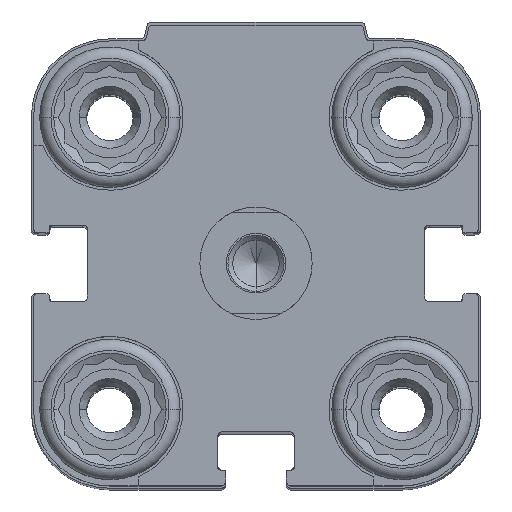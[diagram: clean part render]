
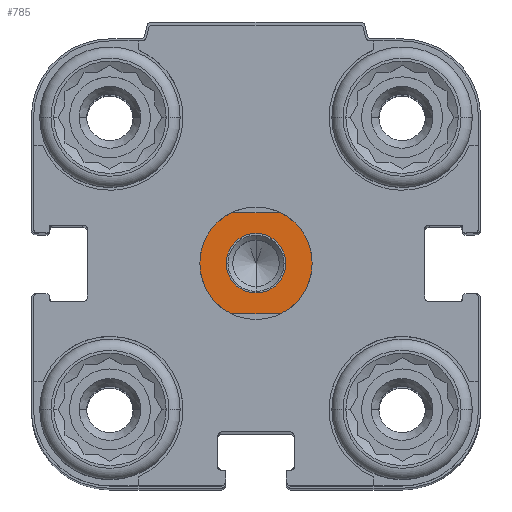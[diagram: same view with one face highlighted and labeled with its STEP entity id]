
A CAD part, top view. The second image highlights one B-rep face of the part: STEP entity #785.
In plain terms, the highlighted planar face has unit normal (0, 0, 1).
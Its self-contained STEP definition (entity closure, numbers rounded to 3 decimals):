
#422 = CIRCLE ( 'NONE', #10923, 5. ) ;
#785 = ADVANCED_FACE ( 'NONE', ( #2543, #1136 ), #15486, .F. ) ;
#1136 = FACE_BOUND ( 'NONE', #6967, .T. ) ;
#1196 = CARTESIAN_POINT ( 'NONE',  ( 5., 0., 5.5 ) ) ;
#1709 = ORIENTED_EDGE ( 'NONE', *, *, #14106, .F. ) ;
#1818 = AXIS2_PLACEMENT_3D ( 'NONE', #3387, #10355, #3202 ) ;
#1827 = ORIENTED_EDGE ( 'NONE', *, *, #7684, .F. ) ;
#2425 = DIRECTION ( 'NONE',  ( 0., 0., -1. ) ) ;
#2543 = FACE_OUTER_BOUND ( 'NONE', #4154, .T. ) ;
#2636 = CARTESIAN_POINT ( 'NONE',  ( 0., 0., 5.5 ) ) ;
#3054 = CARTESIAN_POINT ( 'NONE',  ( 0., 0., 5.5 ) ) ;
#3070 = CARTESIAN_POINT ( 'NONE',  ( 0., 2.65, 5.5 ) ) ;
#3202 = DIRECTION ( 'NONE',  ( 0., 1., 0. ) ) ;
#3387 = CARTESIAN_POINT ( 'NONE',  ( 0., 0., 5.5 ) ) ;
#3426 = CARTESIAN_POINT ( 'NONE',  ( -2.179, 4.5, 5.5 ) ) ;
#3619 = CIRCLE ( 'NONE', #1818, 2.65 ) ;
#3728 = DIRECTION ( 'NONE',  ( 1., 0., 0. ) ) ;
#4154 = EDGE_LOOP ( 'NONE', ( #1709, #16912, #16511, #16036, #1827, #13640 ) ) ;
#4570 = DIRECTION ( 'NONE',  ( -1., 0., 0. ) ) ;
#4648 = AXIS2_PLACEMENT_3D ( 'NONE', #6485, #2425, #12472 ) ;
#4660 = DIRECTION ( 'NONE',  ( 0., 0., -1. ) ) ;
#4996 = CARTESIAN_POINT ( 'NONE',  ( -5., 0., 5.5 ) ) ;
#5132 = CIRCLE ( 'NONE', #10831, 2.65 ) ;
#5216 = EDGE_CURVE ( 'NONE', #13098, #7680, #7991, .T. ) ;
#6485 = CARTESIAN_POINT ( 'NONE',  ( 0., 0., 5.5 ) ) ;
#6963 = EDGE_CURVE ( 'NONE', #7680, #17788, #10255, .T. ) ;
#6967 = EDGE_LOOP ( 'NONE', ( #14872, #11232 ) ) ;
#6972 = DIRECTION ( 'NONE',  ( 0., 1., 0. ) ) ;
#7680 = VERTEX_POINT ( 'NONE', #11613 ) ;
#7684 = EDGE_CURVE ( 'NONE', #14281, #13098, #12026, .T. ) ;
#7757 = EDGE_CURVE ( 'NONE', #16888, #16520, #5132, .T. ) ;
#7951 = DIRECTION ( 'NONE',  ( 0., 0., -1. ) ) ;
#7991 = LINE ( 'NONE', #15470, #17989 ) ;
#8064 = CARTESIAN_POINT ( 'NONE',  ( -9., 4.5, 5.5 ) ) ;
#8377 = DIRECTION ( 'NONE',  ( 0., 0., -1. ) ) ;
#9154 = CIRCLE ( 'NONE', #4648, 5. ) ;
#9168 = DIRECTION ( 'NONE',  ( 0., 0., -1. ) ) ;
#9280 = LINE ( 'NONE', #8064, #11993 ) ;
#9489 = DIRECTION ( 'NONE',  ( -1., 0., 0. ) ) ;
#9715 = CARTESIAN_POINT ( 'NONE',  ( 2.179, 4.5, 5.5 ) ) ;
#10255 = CIRCLE ( 'NONE', #10846, 5. ) ;
#10355 = DIRECTION ( 'NONE',  ( 0., 0., -1. ) ) ;
#10831 = AXIS2_PLACEMENT_3D ( 'NONE', #11964, #9168, #16557 ) ;
#10846 = AXIS2_PLACEMENT_3D ( 'NONE', #17844, #11941, #13438 ) ;
#10923 = AXIS2_PLACEMENT_3D ( 'NONE', #13742, #7951, #16646 ) ;
#11232 = ORIENTED_EDGE ( 'NONE', *, *, #14881, .T. ) ;
#11613 = CARTESIAN_POINT ( 'NONE',  ( -2.179, -4.5, 5.5 ) ) ;
#11941 = DIRECTION ( 'NONE',  ( 0., 0., -1. ) ) ;
#11964 = CARTESIAN_POINT ( 'NONE',  ( 0., 0., 5.5 ) ) ;
#11993 = VECTOR ( 'NONE', #3728, 1000. ) ;
#12026 = CIRCLE ( 'NONE', #15923, 5. ) ;
#12472 = DIRECTION ( 'NONE',  ( -1., 0., 0. ) ) ;
#12704 = EDGE_CURVE ( 'NONE', #17788, #13589, #9154, .T. ) ;
#13098 = VERTEX_POINT ( 'NONE', #13584 ) ;
#13438 = DIRECTION ( 'NONE',  ( -1., 0., 0. ) ) ;
#13497 = EDGE_CURVE ( 'NONE', #17577, #14281, #422, .T. ) ;
#13584 = CARTESIAN_POINT ( 'NONE',  ( 2.179, -4.5, 5.5 ) ) ;
#13589 = VERTEX_POINT ( 'NONE', #3426 ) ;
#13640 = ORIENTED_EDGE ( 'NONE', *, *, #13497, .F. ) ;
#13742 = CARTESIAN_POINT ( 'NONE',  ( 0., 0., 5.5 ) ) ;
#14106 = EDGE_CURVE ( 'NONE', #13589, #17577, #9280, .T. ) ;
#14281 = VERTEX_POINT ( 'NONE', #1196 ) ;
#14722 = CARTESIAN_POINT ( 'NONE',  ( 0., -2.65, 5.5 ) ) ;
#14872 = ORIENTED_EDGE ( 'NONE', *, *, #7757, .T. ) ;
#14881 = EDGE_CURVE ( 'NONE', #16520, #16888, #3619, .T. ) ;
#15470 = CARTESIAN_POINT ( 'NONE',  ( 9., -4.5, 5.5 ) ) ;
#15486 = PLANE ( 'NONE',  #18343 ) ;
#15923 = AXIS2_PLACEMENT_3D ( 'NONE', #3054, #4660, #4570 ) ;
#16036 = ORIENTED_EDGE ( 'NONE', *, *, #5216, .F. ) ;
#16511 = ORIENTED_EDGE ( 'NONE', *, *, #6963, .F. ) ;
#16520 = VERTEX_POINT ( 'NONE', #14722 ) ;
#16557 = DIRECTION ( 'NONE',  ( 0., 1., 0. ) ) ;
#16646 = DIRECTION ( 'NONE',  ( -1., 0., 0. ) ) ;
#16888 = VERTEX_POINT ( 'NONE', #3070 ) ;
#16912 = ORIENTED_EDGE ( 'NONE', *, *, #12704, .F. ) ;
#17577 = VERTEX_POINT ( 'NONE', #9715 ) ;
#17788 = VERTEX_POINT ( 'NONE', #4996 ) ;
#17844 = CARTESIAN_POINT ( 'NONE',  ( 0., 0., 5.5 ) ) ;
#17989 = VECTOR ( 'NONE', #9489, 1000. ) ;
#18343 = AXIS2_PLACEMENT_3D ( 'NONE', #2636, #8377, #6972 ) ;
